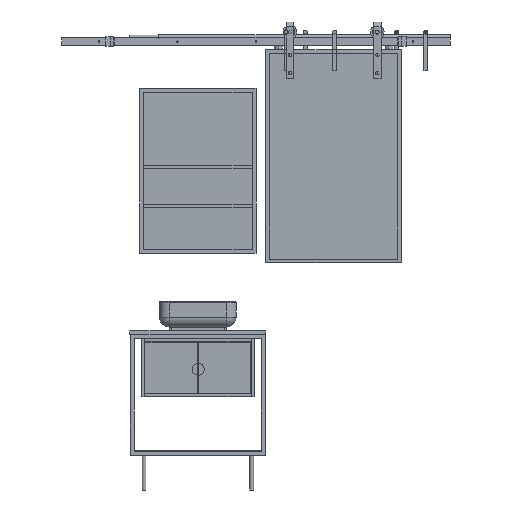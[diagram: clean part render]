
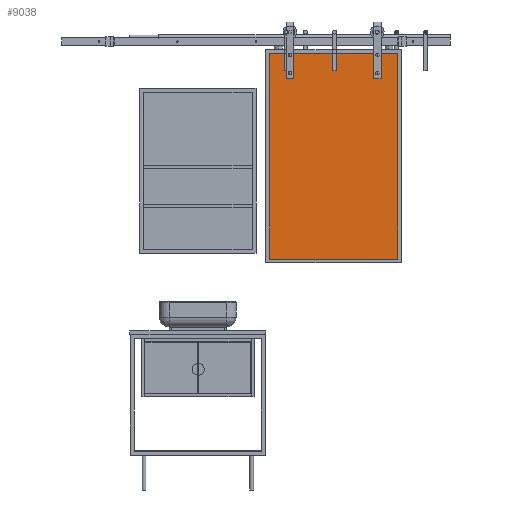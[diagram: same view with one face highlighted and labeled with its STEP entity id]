
A CAD part, front view. The second image highlights one B-rep face of the part: STEP entity #9038.
In plain terms, the highlighted planar face has unit normal (0, -1, 0).
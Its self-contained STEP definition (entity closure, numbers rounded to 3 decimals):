
#106 = CARTESIAN_POINT ( 'NONE',  ( -9281.36, 3132.558, 1540. ) ) ;
#561 = CARTESIAN_POINT ( 'NONE',  ( -8951.36, 3132.558, 1010. ) ) ;
#907 = EDGE_CURVE ( 'NONE', #2536, #17270, #6177, .T. ) ;
#1159 = PLANE ( 'NONE',  #2644 ) ;
#1659 = VERTEX_POINT ( 'NONE', #17171 ) ;
#1688 = EDGE_CURVE ( 'NONE', #1659, #2638, #13950, .T. ) ;
#2536 = VERTEX_POINT ( 'NONE', #4150 ) ;
#2638 = VERTEX_POINT ( 'NONE', #8901 ) ;
#2644 = AXIS2_PLACEMENT_3D ( 'NONE', #19975, #5693, #10130 ) ;
#3413 = CARTESIAN_POINT ( 'NONE',  ( -8951.36, 3132.558, 2070. ) ) ;
#4076 = DIRECTION ( 'NONE',  ( 1., 0., 0. ) ) ;
#4150 = CARTESIAN_POINT ( 'NONE',  ( -9281.36, 3132.558, 2070. ) ) ;
#5071 = ORIENTED_EDGE ( 'NONE', *, *, #1688, .T. ) ;
#5509 = LINE ( 'NONE', #561, #19004 ) ;
#5693 = DIRECTION ( 'NONE',  ( 0., -1., 0. ) ) ;
#6177 = LINE ( 'NONE', #106, #7998 ) ;
#6380 = DIRECTION ( 'NONE',  ( 0., 0., -1. ) ) ;
#6762 = ORIENTED_EDGE ( 'NONE', *, *, #8036, .T. ) ;
#7350 = CARTESIAN_POINT ( 'NONE',  ( -9281.36, 3132.558, 1010. ) ) ;
#7815 = DIRECTION ( 'NONE',  ( 0., 0., 1. ) ) ;
#7998 = VECTOR ( 'NONE', #6380, 1000. ) ;
#8036 = EDGE_CURVE ( 'NONE', #2638, #2536, #19045, .T. ) ;
#8901 = CARTESIAN_POINT ( 'NONE',  ( -8621.36, 3132.558, 2070. ) ) ;
#9038 = ADVANCED_FACE ( 'NONE', ( #15231 ), #1159, .T. ) ;
#10130 = DIRECTION ( 'NONE',  ( 0., 0., -1. ) ) ;
#11404 = ORIENTED_EDGE ( 'NONE', *, *, #16681, .T. ) ;
#11453 = DIRECTION ( 'NONE',  ( -1., 0., 0. ) ) ;
#11843 = VECTOR ( 'NONE', #11453, 1000. ) ;
#12312 = CARTESIAN_POINT ( 'NONE',  ( -8621.36, 3132.558, 1540. ) ) ;
#13950 = LINE ( 'NONE', #12312, #14839 ) ;
#14839 = VECTOR ( 'NONE', #7815, 1000. ) ;
#15231 = FACE_OUTER_BOUND ( 'NONE', #19258, .T. ) ;
#16681 = EDGE_CURVE ( 'NONE', #17270, #1659, #5509, .T. ) ;
#17171 = CARTESIAN_POINT ( 'NONE',  ( -8621.36, 3132.558, 1010. ) ) ;
#17270 = VERTEX_POINT ( 'NONE', #7350 ) ;
#17376 = ORIENTED_EDGE ( 'NONE', *, *, #907, .T. ) ;
#19004 = VECTOR ( 'NONE', #4076, 1000. ) ;
#19045 = LINE ( 'NONE', #3413, #11843 ) ;
#19258 = EDGE_LOOP ( 'NONE', ( #5071, #6762, #17376, #11404 ) ) ;
#19975 = CARTESIAN_POINT ( 'NONE',  ( -8951.36, 3132.558, 1540. ) ) ;
